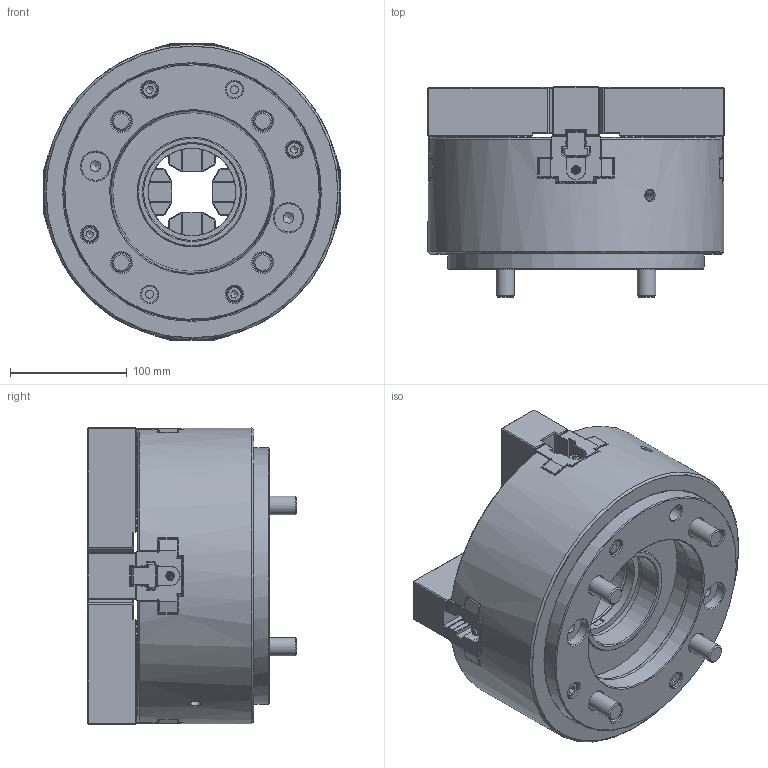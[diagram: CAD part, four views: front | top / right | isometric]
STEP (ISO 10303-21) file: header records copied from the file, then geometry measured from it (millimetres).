
FILE_DESCRIPTION(/* description */ (''),/* implementation_level */ '2;1');
FILE_NAME(/* name */ '\\Itserver\個人資料夾\柯玫如\8.網頁3D討論\1.中空油壓系列\1-1中空油壓夾頭\3.OPF系列\OPF-210\OPF-210-A8.stp',/* time_stamp */ '2024-08-27T09:19:49+08:00',/* author */ ('034'),/* organization */ (''),/* preprocessor_version */ 'ST-DEVELOPER v16.13',/* originating_system */ 'Autodesk Inventor 2018',/* authorisation */ '');
FILE_SCHEMA (('AUTOMOTIVE_DESIGN { 1 0 10303 214 3 1 1 }'));
Products named in the file (1): OPF-210-A8
Bounding box: 254.38 x 179.99 x 254.38 mm (x, y, z)
Volume: 5158835.5 mm3; surface area: 495257.2 mm2
Topology: 1 solids, 18 shells, 7111 faces, 23440 edges, 14941 vertices
Faces by surface type: plane 4492, cylinder 1915, bspline 366, cone 240, torus 78, sphere 20
Full cylindrical faces by diameter (mm): 3 x24, 3.8 x8, 5.1 x4, 5.2 x4, 6 x8, 6.5 x4, 6.8 x2, 8 x4, 8.6 x2, 9 x4, 10.3 x12, 10.5 x4, 11 x4, 12 x8, 13 x12, 14 x6, 16 x8, 17 x8, 18 x8, 19 x8, 24 x4, 24.2 x2, 25 x4, 75 x1, 75.2 x1, 78.5 x1, 79 x1, 79.2 x1, 83 x1, 86 x1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
Entity records: 255436 total; most frequent: CARTESIAN_POINT 51161, ORIENTED_EDGE 45814, DIRECTION 39727, EDGE_CURVE 22907, LINE 17447, VECTOR 17447, VERTEX_POINT 14780, AXIS2_PLACEMENT_3D 11140
